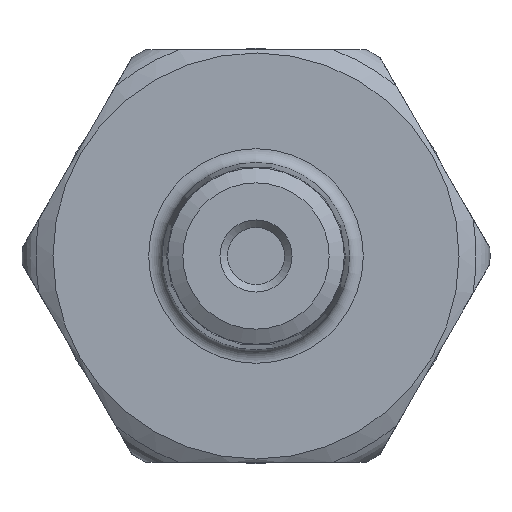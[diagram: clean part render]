
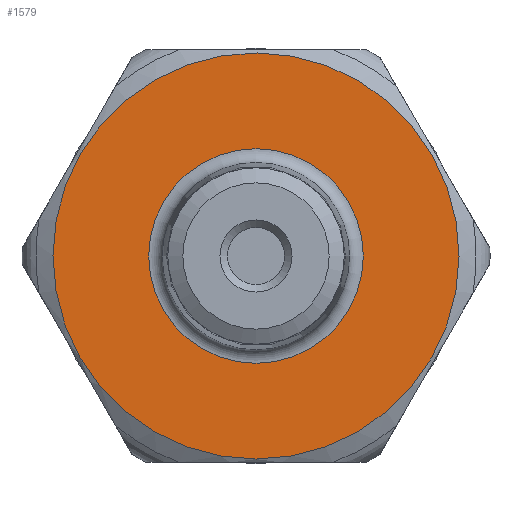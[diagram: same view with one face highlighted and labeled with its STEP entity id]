
A CAD part, front view. The second image highlights one B-rep face of the part: STEP entity #1579.
In plain terms, the highlighted planar face has unit normal (0, -1, 0).
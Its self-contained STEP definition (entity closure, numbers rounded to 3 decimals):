
#27=PLANE('',#1714);
#363=ORIENTED_EDGE('',*,*,#537,.F.);
#364=ORIENTED_EDGE('',*,*,#598,.T.);
#537=EDGE_CURVE('',#671,#671,#759,.T.);
#598=EDGE_CURVE('',#721,#721,#790,.T.);
#671=VERTEX_POINT('',#2316);
#721=VERTEX_POINT('',#2537);
#759=CIRCLE('',#1652,7.793);
#790=CIRCLE('',#1713,14.75);
#877=EDGE_LOOP('',(#363));
#878=EDGE_LOOP('',(#364));
#983=FACE_BOUND('',#877,.T.);
#984=FACE_BOUND('',#878,.T.);
#1579=ADVANCED_FACE('',(#983,#984),#27,.F.);
#1652=AXIS2_PLACEMENT_3D('',#2315,#1851,#1852);
#1713=AXIS2_PLACEMENT_3D('',#2536,#1979,#1980);
#1714=AXIS2_PLACEMENT_3D('',#2568,#1981,#1982);
#1851=DIRECTION('',(0.,-1.,0.));
#1852=DIRECTION('',(1.,0.,0.));
#1979=DIRECTION('',(0.,-1.,0.));
#1980=DIRECTION('',(0.,0.,-1.));
#1981=DIRECTION('',(0.,1.,0.));
#1982=DIRECTION('',(0.,0.,1.));
#2315=CARTESIAN_POINT('',(0.,14.,0.));
#2316=CARTESIAN_POINT('',(7.793,14.,0.));
#2536=CARTESIAN_POINT('',(0.,14.,0.));
#2537=CARTESIAN_POINT('',(0.,14.,-14.75));
#2568=CARTESIAN_POINT('',(14.75,14.,0.));
